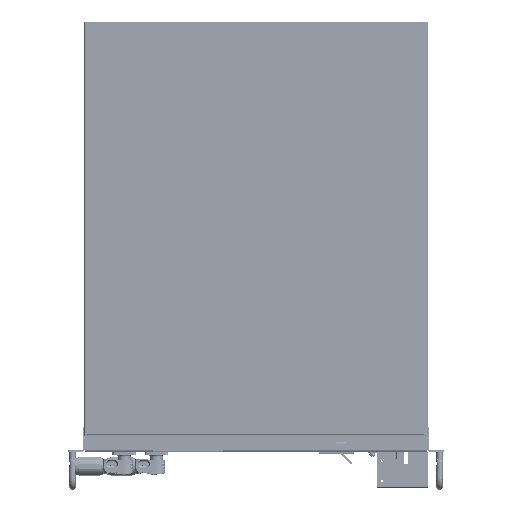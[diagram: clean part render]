
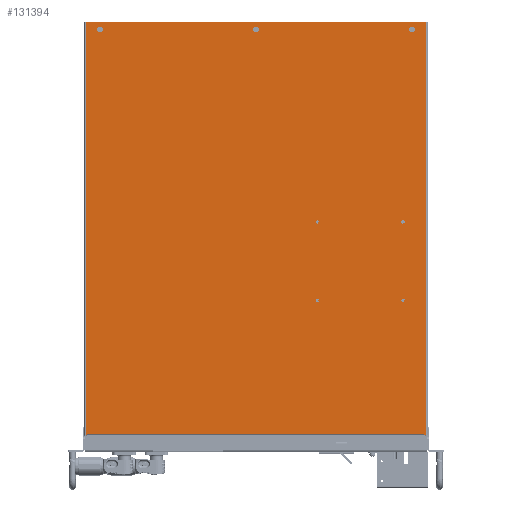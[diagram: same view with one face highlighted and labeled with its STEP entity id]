
A CAD part, top view. The second image highlights one B-rep face of the part: STEP entity #131394.
In plain terms, the highlighted planar face has unit normal (0, 0, 1).
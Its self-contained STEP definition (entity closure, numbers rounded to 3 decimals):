
#129910=DIRECTION('',(0.,1.,0.));
#129911=VECTOR('',#129910,529.);
#129912=CARTESIAN_POINT('',(-218.,-272.5,1.5));
#129913=LINE('',#129912,#129911);
#129923=DIRECTION('',(0.,1.,0.));
#129924=VECTOR('',#129923,1.7);
#129925=CARTESIAN_POINT('',(216.,254.8,1.5));
#129926=LINE('',#129925,#129924);
#129927=DIRECTION('',(1.,0.,0.));
#129928=VECTOR('',#129927,2.);
#129929=CARTESIAN_POINT('',(216.,256.5,1.5));
#129930=LINE('',#129929,#129928);
#129931=DIRECTION('',(1.,0.,0.));
#129932=VECTOR('',#129931,436.);
#129933=CARTESIAN_POINT('',(-218.,-272.5,1.5));
#129934=LINE('',#129933,#129932);
#129935=DIRECTION('',(1.,0.,0.));
#129936=VECTOR('',#129935,2.5);
#129937=CARTESIAN_POINT('',(-218.,256.5,1.5));
#129938=LINE('',#129937,#129936);
#129939=DIRECTION('',(0.,1.,0.));
#129940=VECTOR('',#129939,1.7);
#129941=CARTESIAN_POINT('',(-215.5,254.8,1.5));
#129942=LINE('',#129941,#129940);
#129943=CARTESIAN_POINT('',(200.,-263.,1.5));
#129944=DIRECTION('',(0.,0.,-1.));
#129945=DIRECTION('',(0.,1.,0.));
#129946=AXIS2_PLACEMENT_3D('',#129943,#129944,#129945);
#129948=CARTESIAN_POINT('',(200.,-263.,1.5));
#129949=DIRECTION('',(0.,0.,-1.));
#129950=DIRECTION('',(0.,-1.,0.));
#129951=AXIS2_PLACEMENT_3D('',#129948,#129949,#129950);
#129953=CARTESIAN_POINT('',(0.,-263.,1.5));
#129954=DIRECTION('',(0.,0.,-1.));
#129955=DIRECTION('',(0.,1.,0.));
#129956=AXIS2_PLACEMENT_3D('',#129953,#129954,#129955);
#129958=CARTESIAN_POINT('',(0.,-263.,1.5));
#129959=DIRECTION('',(0.,0.,-1.));
#129960=DIRECTION('',(0.,-1.,0.));
#129961=AXIS2_PLACEMENT_3D('',#129958,#129959,#129960);
#129963=CARTESIAN_POINT('',(-200.,-263.,1.5));
#129964=DIRECTION('',(0.,0.,-1.));
#129965=DIRECTION('',(0.,1.,0.));
#129966=AXIS2_PLACEMENT_3D('',#129963,#129964,#129965);
#129968=CARTESIAN_POINT('',(-200.,-263.,1.5));
#129969=DIRECTION('',(0.,0.,-1.));
#129970=DIRECTION('',(0.,-1.,0.));
#129971=AXIS2_PLACEMENT_3D('',#129968,#129969,#129970);
#129973=CARTESIAN_POINT('',(-78.4,-16.2,1.5));
#129974=DIRECTION('',(0.,0.,-1.));
#129975=DIRECTION('',(0.,-1.,0.));
#129976=AXIS2_PLACEMENT_3D('',#129973,#129974,#129975);
#129978=CARTESIAN_POINT('',(-78.4,-16.2,1.5));
#129979=DIRECTION('',(0.,0.,-1.));
#129980=DIRECTION('',(0.,1.,0.));
#129981=AXIS2_PLACEMENT_3D('',#129978,#129979,#129980);
#129983=CARTESIAN_POINT('',(-78.4,83.8,1.5));
#129984=DIRECTION('',(0.,0.,-1.));
#129985=DIRECTION('',(0.,-1.,0.));
#129986=AXIS2_PLACEMENT_3D('',#129983,#129984,#129985);
#129988=CARTESIAN_POINT('',(-78.4,83.8,1.5));
#129989=DIRECTION('',(0.,0.,-1.));
#129990=DIRECTION('',(0.,1.,0.));
#129991=AXIS2_PLACEMENT_3D('',#129988,#129989,#129990);
#129993=CARTESIAN_POINT('',(-188.4,83.8,1.5));
#129994=DIRECTION('',(0.,0.,-1.));
#129995=DIRECTION('',(0.,-1.,0.));
#129996=AXIS2_PLACEMENT_3D('',#129993,#129994,#129995);
#129998=CARTESIAN_POINT('',(-188.4,83.8,1.5));
#129999=DIRECTION('',(0.,0.,-1.));
#130000=DIRECTION('',(0.,1.,0.));
#130001=AXIS2_PLACEMENT_3D('',#129998,#129999,#130000);
#130003=CARTESIAN_POINT('',(-188.4,-16.2,1.5));
#130004=DIRECTION('',(0.,0.,-1.));
#130005=DIRECTION('',(0.,-1.,0.));
#130006=AXIS2_PLACEMENT_3D('',#130003,#130004,#130005);
#130008=CARTESIAN_POINT('',(-188.4,-16.2,1.5));
#130009=DIRECTION('',(0.,0.,-1.));
#130010=DIRECTION('',(0.,1.,0.));
#130011=AXIS2_PLACEMENT_3D('',#130008,#130009,#130010);
#130013=DIRECTION('',(1.,0.,0.));
#130014=VECTOR('',#130013,431.5);
#130015=CARTESIAN_POINT('',(-215.5,254.8,1.5));
#130016=LINE('',#130015,#130014);
#130543=DIRECTION('',(0.,-1.,0.));
#130544=VECTOR('',#130543,529.);
#130545=CARTESIAN_POINT('',(218.,256.5,1.5));
#130546=LINE('',#130545,#130544);
#130780=CARTESIAN_POINT('',(-218.,-272.5,1.5));
#130782=VERTEX_POINT('',#130780);
#130788=CARTESIAN_POINT('',(218.,-272.5,1.5));
#130790=VERTEX_POINT('',#130788);
#130804=CARTESIAN_POINT('',(-218.,256.5,1.5));
#130806=VERTEX_POINT('',#130804);
#130808=CARTESIAN_POINT('',(218.,256.5,1.5));
#130810=VERTEX_POINT('',#130808);
#130815=CARTESIAN_POINT('',(-215.5,254.8,1.5));
#130816=CARTESIAN_POINT('',(-215.5,256.5,1.5));
#130817=VERTEX_POINT('',#130815);
#130818=VERTEX_POINT('',#130816);
#130823=CARTESIAN_POINT('',(216.,254.8,1.5));
#130824=CARTESIAN_POINT('',(216.,256.5,1.5));
#130825=VERTEX_POINT('',#130823);
#130826=VERTEX_POINT('',#130824);
#130891=CARTESIAN_POINT('',(200.,-259.25,1.5));
#130892=CARTESIAN_POINT('',(200.,-266.75,1.5));
#130893=VERTEX_POINT('',#130891);
#130894=VERTEX_POINT('',#130892);
#130899=CARTESIAN_POINT('',(0.,-259.25,1.5));
#130900=CARTESIAN_POINT('',(0.,-266.75,1.5));
#130901=VERTEX_POINT('',#130899);
#130902=VERTEX_POINT('',#130900);
#130907=CARTESIAN_POINT('',(-200.,-259.25,1.5));
#130908=CARTESIAN_POINT('',(-200.,-266.75,1.5));
#130909=VERTEX_POINT('',#130907);
#130910=VERTEX_POINT('',#130908);
#131019=CARTESIAN_POINT('',(-188.4,-17.7,1.5));
#131020=CARTESIAN_POINT('',(-188.4,-14.7,1.5));
#131021=VERTEX_POINT('',#131019);
#131022=VERTEX_POINT('',#131020);
#131023=CARTESIAN_POINT('',(-188.4,82.3,1.5));
#131024=CARTESIAN_POINT('',(-188.4,85.3,1.5));
#131025=VERTEX_POINT('',#131023);
#131026=VERTEX_POINT('',#131024);
#131027=CARTESIAN_POINT('',(-78.4,82.3,1.5));
#131028=CARTESIAN_POINT('',(-78.4,85.3,1.5));
#131029=VERTEX_POINT('',#131027);
#131030=VERTEX_POINT('',#131028);
#131031=CARTESIAN_POINT('',(-78.4,-17.7,1.5));
#131032=CARTESIAN_POINT('',(-78.4,-14.7,1.5));
#131033=VERTEX_POINT('',#131031);
#131034=VERTEX_POINT('',#131032);
#131330=CARTESIAN_POINT('',(0.,0.,1.5));
#131331=DIRECTION('',(0.,0.,1.));
#131332=DIRECTION('',(1.,0.,0.));
#131333=AXIS2_PLACEMENT_3D('',#131330,#131331,#131332);
#131334=PLANE('',#131333);
#131336=ORIENTED_EDGE('',*,*,#131335,.T.);
#131338=ORIENTED_EDGE('',*,*,#131337,.T.);
#131340=ORIENTED_EDGE('',*,*,#131339,.T.);
#131342=ORIENTED_EDGE('',*,*,#131341,.T.);
#131344=ORIENTED_EDGE('',*,*,#131343,.F.);
#131345=ORIENTED_EDGE('',*,*,#131323,.T.);
#131347=ORIENTED_EDGE('',*,*,#131346,.T.);
#131349=ORIENTED_EDGE('',*,*,#131348,.F.);
#131350=EDGE_LOOP('',(#131336,#131338,#131340,#131342,#131344,#131345,#131347,
#131349));
#131351=FACE_OUTER_BOUND('',#131350,.F.);
#131353=ORIENTED_EDGE('',*,*,#131352,.F.);
#131355=ORIENTED_EDGE('',*,*,#131354,.F.);
#131356=EDGE_LOOP('',(#131353,#131355));
#131357=FACE_BOUND('',#131356,.F.);
#131359=ORIENTED_EDGE('',*,*,#131358,.F.);
#131361=ORIENTED_EDGE('',*,*,#131360,.F.);
#131362=EDGE_LOOP('',(#131359,#131361));
#131363=FACE_BOUND('',#131362,.F.);
#131365=ORIENTED_EDGE('',*,*,#131364,.F.);
#131367=ORIENTED_EDGE('',*,*,#131366,.F.);
#131368=EDGE_LOOP('',(#131365,#131367));
#131369=FACE_BOUND('',#131368,.F.);
#131371=ORIENTED_EDGE('',*,*,#131370,.F.);
#131373=ORIENTED_EDGE('',*,*,#131372,.F.);
#131374=EDGE_LOOP('',(#131371,#131373));
#131375=FACE_BOUND('',#131374,.F.);
#131377=ORIENTED_EDGE('',*,*,#131376,.F.);
#131379=ORIENTED_EDGE('',*,*,#131378,.F.);
#131380=EDGE_LOOP('',(#131377,#131379));
#131381=FACE_BOUND('',#131380,.F.);
#131383=ORIENTED_EDGE('',*,*,#131382,.F.);
#131385=ORIENTED_EDGE('',*,*,#131384,.F.);
#131386=EDGE_LOOP('',(#131383,#131385));
#131387=FACE_BOUND('',#131386,.F.);
#131389=ORIENTED_EDGE('',*,*,#131388,.F.);
#131391=ORIENTED_EDGE('',*,*,#131390,.F.);
#131392=EDGE_LOOP('',(#131389,#131391));
#131393=FACE_BOUND('',#131392,.F.);
#129947=CIRCLE('',#129946,3.75);
#129952=CIRCLE('',#129951,3.75);
#129957=CIRCLE('',#129956,3.75);
#129962=CIRCLE('',#129961,3.75);
#129967=CIRCLE('',#129966,3.75);
#129972=CIRCLE('',#129971,3.75);
#129977=CIRCLE('',#129976,1.5);
#129982=CIRCLE('',#129981,1.5);
#129987=CIRCLE('',#129986,1.5);
#129992=CIRCLE('',#129991,1.5);
#129997=CIRCLE('',#129996,1.5);
#130002=CIRCLE('',#130001,1.5);
#130007=CIRCLE('',#130006,1.5);
#130012=CIRCLE('',#130011,1.5);
#131323=EDGE_CURVE('',#130782,#130806,#129913,.T.);
#131335=EDGE_CURVE('',#130817,#130825,#130016,.T.);
#131337=EDGE_CURVE('',#130825,#130826,#129926,.T.);
#131339=EDGE_CURVE('',#130826,#130810,#129930,.T.);
#131341=EDGE_CURVE('',#130810,#130790,#130546,.T.);
#131343=EDGE_CURVE('',#130782,#130790,#129934,.T.);
#131346=EDGE_CURVE('',#130806,#130818,#129938,.T.);
#131348=EDGE_CURVE('',#130817,#130818,#129942,.T.);
#131352=EDGE_CURVE('',#130893,#130894,#129947,.T.);
#131354=EDGE_CURVE('',#130894,#130893,#129952,.T.);
#131358=EDGE_CURVE('',#130901,#130902,#129957,.T.);
#131360=EDGE_CURVE('',#130902,#130901,#129962,.T.);
#131364=EDGE_CURVE('',#130909,#130910,#129967,.T.);
#131366=EDGE_CURVE('',#130910,#130909,#129972,.T.);
#131370=EDGE_CURVE('',#131033,#131034,#129977,.T.);
#131372=EDGE_CURVE('',#131034,#131033,#129982,.T.);
#131376=EDGE_CURVE('',#131029,#131030,#129987,.T.);
#131378=EDGE_CURVE('',#131030,#131029,#129992,.T.);
#131382=EDGE_CURVE('',#131025,#131026,#129997,.T.);
#131384=EDGE_CURVE('',#131026,#131025,#130002,.T.);
#131388=EDGE_CURVE('',#131021,#131022,#130007,.T.);
#131390=EDGE_CURVE('',#131022,#131021,#130012,.T.);
#131394=ADVANCED_FACE('',(#131351,#131357,#131363,#131369,#131375,#131381,
#131387,#131393),#131334,.T.);
